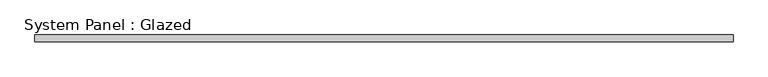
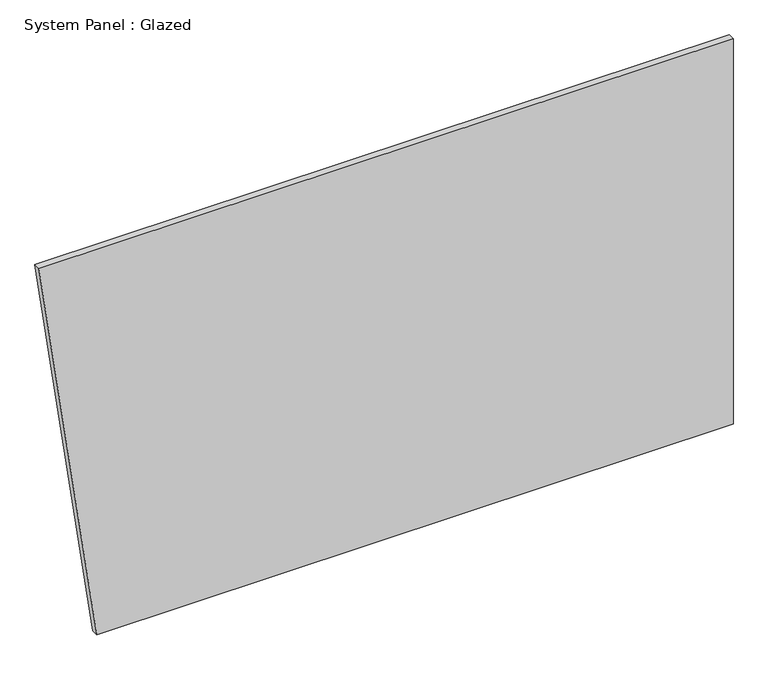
"""IFC4 building model written with IfcOpenShell, lengths in millimetres: plate geometry, System Panel : Glazed."""

from ifc_helpers import new_model, si_unit, frame, origin, place, context, project, spatial, polyline, outline, extrude, source, transform, mapped, element, save


def system_panel_glazed_377c946f(model_context):
    return source(origin(), model_context, "Body", "SweptSolid", [
        extrude(outline(polyline([(0.0, -1080.5442614), (0.0, 1297.5896165), (1524.0, 1297.5896165), (1524.0, -1297.5896165), (0.0, -1080.5442614)])), frame((0.0, 19.05, 0.0), z_axis=(0.0, 1.0, 0.0), x_axis=(0.0, 0.0, 1.0)), (0.0, 0.0, 1.0), 25.4),
    ])


if __name__ == "__main__":
    model = new_model("IFC4")
    model_context = context("Model", 3, world=origin())
    ifc_project = project(units=[si_unit("LENGTHUNIT", "METRE", prefix="MILLI")], contexts=[model_context])
    site = spatial("IfcSite", under=ifc_project)
    building = spatial("IfcBuilding", under=site)
    placement = place(None, origin())
    system_panel_glazed_shape = system_panel_glazed_377c946f(model_context)
    element("IfcPlate", 1, ObjectType="System Panel : Glazed", at=placement, inside=building, context=model_context, shape_type="MappedRepresentation", body=[
        mapped(system_panel_glazed_shape, transform((0.0, 0.0, 0.0), x_axis=(1.0, 0.0, 0.0), y_axis=(0.0, 1.0, 0.0), z_axis=(0.0, 0.0, 1.0))),
    ])
    save(model, "model.ifc")
